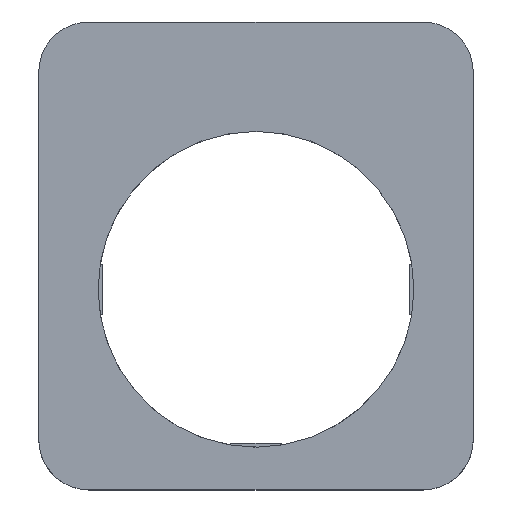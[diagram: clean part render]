
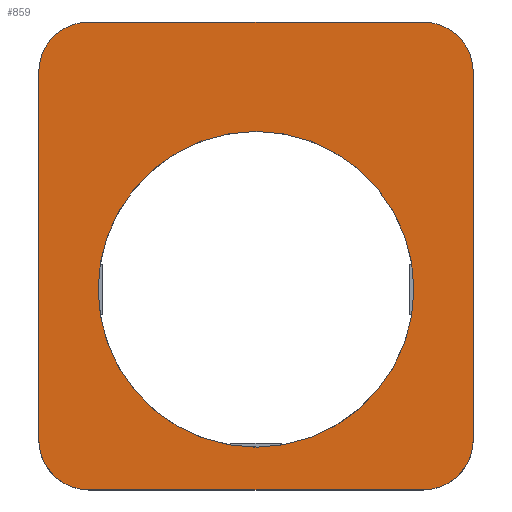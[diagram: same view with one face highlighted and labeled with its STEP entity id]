
A CAD part, top view. The second image highlights one B-rep face of the part: STEP entity #859.
In plain terms, the highlighted planar face has unit normal (0, 0, 1).
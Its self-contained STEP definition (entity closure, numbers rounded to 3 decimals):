
#24 = VERTEX_POINT('',#25);
#25 = CARTESIAN_POINT('',(-20.,-28.,14.8));
#32 = PLANE('',#33);
#33 = AXIS2_PLACEMENT_3D('',#34,#35,#36);
#34 = CARTESIAN_POINT('',(-20.,-28.,2.4));
#35 = DIRECTION('',(0.,1.,0.));
#36 = DIRECTION('',(1.,0.,0.));
#44 = CYLINDRICAL_SURFACE('',#45,6.);
#45 = AXIS2_PLACEMENT_3D('',#46,#47,#48);
#46 = CARTESIAN_POINT('',(-20.,-22.,2.4));
#47 = DIRECTION('',(-0.,-0.,-1.));
#48 = DIRECTION('',(1.,0.,0.));
#56 = EDGE_CURVE('',#24,#57,#59,.T.);
#57 = VERTEX_POINT('',#58);
#58 = CARTESIAN_POINT('',(20.,-28.,14.8));
#59 = SURFACE_CURVE('',#60,(#64,#71),.PCURVE_S1.);
#60 = LINE('',#61,#62);
#61 = CARTESIAN_POINT('',(-20.,-28.,14.8));
#62 = VECTOR('',#63,1.);
#63 = DIRECTION('',(1.,0.,0.));
#64 = PCURVE('',#32,#65);
#65 = DEFINITIONAL_REPRESENTATION('',(#66),#70);
#66 = LINE('',#67,#68);
#67 = CARTESIAN_POINT('',(0.,-12.4));
#68 = VECTOR('',#69,1.);
#69 = DIRECTION('',(1.,0.));
#70 = ( GEOMETRIC_REPRESENTATION_CONTEXT(2) 
PARAMETRIC_REPRESENTATION_CONTEXT() REPRESENTATION_CONTEXT('2D SPACE',''
  ) );
#71 = PCURVE('',#72,#77);
#72 = PLANE('',#73);
#73 = AXIS2_PLACEMENT_3D('',#74,#75,#76);
#74 = CARTESIAN_POINT('',(0.,0.,14.8));
#75 = DIRECTION('',(0.,0.,1.));
#76 = DIRECTION('',(1.,0.,-0.));
#77 = DEFINITIONAL_REPRESENTATION('',(#78),#82);
#78 = LINE('',#79,#80);
#79 = CARTESIAN_POINT('',(-20.,-28.));
#80 = VECTOR('',#81,1.);
#81 = DIRECTION('',(1.,0.));
#82 = ( GEOMETRIC_REPRESENTATION_CONTEXT(2) 
PARAMETRIC_REPRESENTATION_CONTEXT() REPRESENTATION_CONTEXT('2D SPACE',''
  ) );
#100 = CYLINDRICAL_SURFACE('',#101,6.);
#101 = AXIS2_PLACEMENT_3D('',#102,#103,#104);
#102 = CARTESIAN_POINT('',(20.,-22.,2.4));
#103 = DIRECTION('',(-0.,-0.,-1.));
#104 = DIRECTION('',(1.,0.,0.));
#272 = VERTEX_POINT('',#273);
#273 = CARTESIAN_POINT('',(-26.,-22.,14.8));
#287 = PLANE('',#288);
#288 = AXIS2_PLACEMENT_3D('',#289,#290,#291);
#289 = CARTESIAN_POINT('',(-26.,22.,2.4));
#290 = DIRECTION('',(1.,0.,-0.));
#291 = DIRECTION('',(0.,-1.,0.));
#299 = EDGE_CURVE('',#272,#24,#300,.T.);
#300 = SURFACE_CURVE('',#301,(#306,#313),.PCURVE_S1.);
#301 = CIRCLE('',#302,6.);
#302 = AXIS2_PLACEMENT_3D('',#303,#304,#305);
#303 = CARTESIAN_POINT('',(-20.,-22.,14.8));
#304 = DIRECTION('',(0.,0.,1.));
#305 = DIRECTION('',(1.,0.,0.));
#306 = PCURVE('',#44,#307);
#307 = DEFINITIONAL_REPRESENTATION('',(#308),#312);
#308 = LINE('',#309,#310);
#309 = CARTESIAN_POINT('',(-0.,-12.4));
#310 = VECTOR('',#311,1.);
#311 = DIRECTION('',(-1.,0.));
#312 = ( GEOMETRIC_REPRESENTATION_CONTEXT(2) 
PARAMETRIC_REPRESENTATION_CONTEXT() REPRESENTATION_CONTEXT('2D SPACE',''
  ) );
#313 = PCURVE('',#72,#314);
#314 = DEFINITIONAL_REPRESENTATION('',(#315),#319);
#315 = CIRCLE('',#316,6.);
#316 = AXIS2_PLACEMENT_2D('',#317,#318);
#317 = CARTESIAN_POINT('',(-20.,-22.));
#318 = DIRECTION('',(1.,0.));
#319 = ( GEOMETRIC_REPRESENTATION_CONTEXT(2) 
PARAMETRIC_REPRESENTATION_CONTEXT() REPRESENTATION_CONTEXT('2D SPACE',''
  ) );
#390 = PLANE('',#391);
#391 = AXIS2_PLACEMENT_3D('',#392,#393,#394);
#392 = CARTESIAN_POINT('',(26.,-22.,2.4));
#393 = DIRECTION('',(-1.,0.,0.));
#394 = DIRECTION('',(0.,1.,0.));
#419 = CYLINDRICAL_SURFACE('',#420,6.);
#420 = AXIS2_PLACEMENT_3D('',#421,#422,#423);
#421 = CARTESIAN_POINT('',(20.,22.,2.4));
#422 = DIRECTION('',(-0.,-0.,-1.));
#423 = DIRECTION('',(1.,0.,0.));
#447 = PLANE('',#448);
#448 = AXIS2_PLACEMENT_3D('',#449,#450,#451);
#449 = CARTESIAN_POINT('',(20.,28.,2.4));
#450 = DIRECTION('',(0.,-1.,0.));
#451 = DIRECTION('',(-1.,0.,0.));
#474 = CYLINDRICAL_SURFACE('',#475,6.);
#475 = AXIS2_PLACEMENT_3D('',#476,#477,#478);
#476 = CARTESIAN_POINT('',(-20.,22.,2.4));
#477 = DIRECTION('',(-0.,-0.,-1.));
#478 = DIRECTION('',(1.,0.,0.));
#859 = ADVANCED_FACE('',(#860,#1003),#72,.T.);
#860 = FACE_BOUND('',#861,.T.);
#861 = EDGE_LOOP('',(#862,#885,#886,#887,#911,#934,#958,#981));
#862 = ORIENTED_EDGE('',*,*,#863,.T.);
#863 = EDGE_CURVE('',#864,#272,#866,.T.);
#864 = VERTEX_POINT('',#865);
#865 = CARTESIAN_POINT('',(-26.,22.,14.8));
#866 = SURFACE_CURVE('',#867,(#871,#878),.PCURVE_S1.);
#867 = LINE('',#868,#869);
#868 = CARTESIAN_POINT('',(-26.,22.,14.8));
#869 = VECTOR('',#870,1.);
#870 = DIRECTION('',(0.,-1.,0.));
#871 = PCURVE('',#72,#872);
#872 = DEFINITIONAL_REPRESENTATION('',(#873),#877);
#873 = LINE('',#874,#875);
#874 = CARTESIAN_POINT('',(-26.,22.));
#875 = VECTOR('',#876,1.);
#876 = DIRECTION('',(0.,-1.));
#877 = ( GEOMETRIC_REPRESENTATION_CONTEXT(2) 
PARAMETRIC_REPRESENTATION_CONTEXT() REPRESENTATION_CONTEXT('2D SPACE',''
  ) );
#878 = PCURVE('',#287,#879);
#879 = DEFINITIONAL_REPRESENTATION('',(#880),#884);
#880 = LINE('',#881,#882);
#881 = CARTESIAN_POINT('',(0.,-12.4));
#882 = VECTOR('',#883,1.);
#883 = DIRECTION('',(1.,0.));
#884 = ( GEOMETRIC_REPRESENTATION_CONTEXT(2) 
PARAMETRIC_REPRESENTATION_CONTEXT() REPRESENTATION_CONTEXT('2D SPACE',''
  ) );
#885 = ORIENTED_EDGE('',*,*,#299,.T.);
#886 = ORIENTED_EDGE('',*,*,#56,.T.);
#887 = ORIENTED_EDGE('',*,*,#888,.T.);
#888 = EDGE_CURVE('',#57,#889,#891,.T.);
#889 = VERTEX_POINT('',#890);
#890 = CARTESIAN_POINT('',(26.,-22.,14.8));
#891 = SURFACE_CURVE('',#892,(#897,#904),.PCURVE_S1.);
#892 = CIRCLE('',#893,6.);
#893 = AXIS2_PLACEMENT_3D('',#894,#895,#896);
#894 = CARTESIAN_POINT('',(20.,-22.,14.8));
#895 = DIRECTION('',(0.,0.,1.));
#896 = DIRECTION('',(1.,0.,0.));
#897 = PCURVE('',#72,#898);
#898 = DEFINITIONAL_REPRESENTATION('',(#899),#903);
#899 = CIRCLE('',#900,6.);
#900 = AXIS2_PLACEMENT_2D('',#901,#902);
#901 = CARTESIAN_POINT('',(20.,-22.));
#902 = DIRECTION('',(1.,0.));
#903 = ( GEOMETRIC_REPRESENTATION_CONTEXT(2) 
PARAMETRIC_REPRESENTATION_CONTEXT() REPRESENTATION_CONTEXT('2D SPACE',''
  ) );
#904 = PCURVE('',#100,#905);
#905 = DEFINITIONAL_REPRESENTATION('',(#906),#910);
#906 = LINE('',#907,#908);
#907 = CARTESIAN_POINT('',(-0.,-12.4));
#908 = VECTOR('',#909,1.);
#909 = DIRECTION('',(-1.,0.));
#910 = ( GEOMETRIC_REPRESENTATION_CONTEXT(2) 
PARAMETRIC_REPRESENTATION_CONTEXT() REPRESENTATION_CONTEXT('2D SPACE',''
  ) );
#911 = ORIENTED_EDGE('',*,*,#912,.T.);
#912 = EDGE_CURVE('',#889,#913,#915,.T.);
#913 = VERTEX_POINT('',#914);
#914 = CARTESIAN_POINT('',(26.,22.,14.8));
#915 = SURFACE_CURVE('',#916,(#920,#927),.PCURVE_S1.);
#916 = LINE('',#917,#918);
#917 = CARTESIAN_POINT('',(26.,-22.,14.8));
#918 = VECTOR('',#919,1.);
#919 = DIRECTION('',(0.,1.,0.));
#920 = PCURVE('',#72,#921);
#921 = DEFINITIONAL_REPRESENTATION('',(#922),#926);
#922 = LINE('',#923,#924);
#923 = CARTESIAN_POINT('',(26.,-22.));
#924 = VECTOR('',#925,1.);
#925 = DIRECTION('',(0.,1.));
#926 = ( GEOMETRIC_REPRESENTATION_CONTEXT(2) 
PARAMETRIC_REPRESENTATION_CONTEXT() REPRESENTATION_CONTEXT('2D SPACE',''
  ) );
#927 = PCURVE('',#390,#928);
#928 = DEFINITIONAL_REPRESENTATION('',(#929),#933);
#929 = LINE('',#930,#931);
#930 = CARTESIAN_POINT('',(0.,-12.4));
#931 = VECTOR('',#932,1.);
#932 = DIRECTION('',(1.,0.));
#933 = ( GEOMETRIC_REPRESENTATION_CONTEXT(2) 
PARAMETRIC_REPRESENTATION_CONTEXT() REPRESENTATION_CONTEXT('2D SPACE',''
  ) );
#934 = ORIENTED_EDGE('',*,*,#935,.T.);
#935 = EDGE_CURVE('',#913,#936,#938,.T.);
#936 = VERTEX_POINT('',#937);
#937 = CARTESIAN_POINT('',(20.,28.,14.8));
#938 = SURFACE_CURVE('',#939,(#944,#951),.PCURVE_S1.);
#939 = CIRCLE('',#940,6.);
#940 = AXIS2_PLACEMENT_3D('',#941,#942,#943);
#941 = CARTESIAN_POINT('',(20.,22.,14.8));
#942 = DIRECTION('',(0.,0.,1.));
#943 = DIRECTION('',(1.,0.,0.));
#944 = PCURVE('',#72,#945);
#945 = DEFINITIONAL_REPRESENTATION('',(#946),#950);
#946 = CIRCLE('',#947,6.);
#947 = AXIS2_PLACEMENT_2D('',#948,#949);
#948 = CARTESIAN_POINT('',(20.,22.));
#949 = DIRECTION('',(1.,0.));
#950 = ( GEOMETRIC_REPRESENTATION_CONTEXT(2) 
PARAMETRIC_REPRESENTATION_CONTEXT() REPRESENTATION_CONTEXT('2D SPACE',''
  ) );
#951 = PCURVE('',#419,#952);
#952 = DEFINITIONAL_REPRESENTATION('',(#953),#957);
#953 = LINE('',#954,#955);
#954 = CARTESIAN_POINT('',(-0.,-12.4));
#955 = VECTOR('',#956,1.);
#956 = DIRECTION('',(-1.,0.));
#957 = ( GEOMETRIC_REPRESENTATION_CONTEXT(2) 
PARAMETRIC_REPRESENTATION_CONTEXT() REPRESENTATION_CONTEXT('2D SPACE',''
  ) );
#958 = ORIENTED_EDGE('',*,*,#959,.T.);
#959 = EDGE_CURVE('',#936,#960,#962,.T.);
#960 = VERTEX_POINT('',#961);
#961 = CARTESIAN_POINT('',(-20.,28.,14.8));
#962 = SURFACE_CURVE('',#963,(#967,#974),.PCURVE_S1.);
#963 = LINE('',#964,#965);
#964 = CARTESIAN_POINT('',(20.,28.,14.8));
#965 = VECTOR('',#966,1.);
#966 = DIRECTION('',(-1.,0.,0.));
#967 = PCURVE('',#72,#968);
#968 = DEFINITIONAL_REPRESENTATION('',(#969),#973);
#969 = LINE('',#970,#971);
#970 = CARTESIAN_POINT('',(20.,28.));
#971 = VECTOR('',#972,1.);
#972 = DIRECTION('',(-1.,0.));
#973 = ( GEOMETRIC_REPRESENTATION_CONTEXT(2) 
PARAMETRIC_REPRESENTATION_CONTEXT() REPRESENTATION_CONTEXT('2D SPACE',''
  ) );
#974 = PCURVE('',#447,#975);
#975 = DEFINITIONAL_REPRESENTATION('',(#976),#980);
#976 = LINE('',#977,#978);
#977 = CARTESIAN_POINT('',(0.,-12.4));
#978 = VECTOR('',#979,1.);
#979 = DIRECTION('',(1.,0.));
#980 = ( GEOMETRIC_REPRESENTATION_CONTEXT(2) 
PARAMETRIC_REPRESENTATION_CONTEXT() REPRESENTATION_CONTEXT('2D SPACE',''
  ) );
#981 = ORIENTED_EDGE('',*,*,#982,.T.);
#982 = EDGE_CURVE('',#960,#864,#983,.T.);
#983 = SURFACE_CURVE('',#984,(#989,#996),.PCURVE_S1.);
#984 = CIRCLE('',#985,6.);
#985 = AXIS2_PLACEMENT_3D('',#986,#987,#988);
#986 = CARTESIAN_POINT('',(-20.,22.,14.8));
#987 = DIRECTION('',(0.,0.,1.));
#988 = DIRECTION('',(1.,0.,0.));
#989 = PCURVE('',#72,#990);
#990 = DEFINITIONAL_REPRESENTATION('',(#991),#995);
#991 = CIRCLE('',#992,6.);
#992 = AXIS2_PLACEMENT_2D('',#993,#994);
#993 = CARTESIAN_POINT('',(-20.,22.));
#994 = DIRECTION('',(1.,0.));
#995 = ( GEOMETRIC_REPRESENTATION_CONTEXT(2) 
PARAMETRIC_REPRESENTATION_CONTEXT() REPRESENTATION_CONTEXT('2D SPACE',''
  ) );
#996 = PCURVE('',#474,#997);
#997 = DEFINITIONAL_REPRESENTATION('',(#998),#1002);
#998 = LINE('',#999,#1000);
#999 = CARTESIAN_POINT('',(-0.,-12.4));
#1000 = VECTOR('',#1001,1.);
#1001 = DIRECTION('',(-1.,0.));
#1002 = ( GEOMETRIC_REPRESENTATION_CONTEXT(2) 
PARAMETRIC_REPRESENTATION_CONTEXT() REPRESENTATION_CONTEXT('2D SPACE',''
  ) );
#1003 = FACE_BOUND('',#1004,.T.);
#1004 = EDGE_LOOP('',(#1005));
#1005 = ORIENTED_EDGE('',*,*,#1006,.T.);
#1006 = EDGE_CURVE('',#1007,#1007,#1009,.T.);
#1007 = VERTEX_POINT('',#1008);
#1008 = CARTESIAN_POINT('',(18.9,-4.,14.8));
#1009 = SURFACE_CURVE('',#1010,(#1015,#1026),.PCURVE_S1.);
#1010 = CIRCLE('',#1011,18.9);
#1011 = AXIS2_PLACEMENT_3D('',#1012,#1013,#1014);
#1012 = CARTESIAN_POINT('',(0.,-4.,14.8));
#1013 = DIRECTION('',(0.,0.,-1.));
#1014 = DIRECTION('',(1.,0.,0.));
#1015 = PCURVE('',#72,#1016);
#1016 = DEFINITIONAL_REPRESENTATION('',(#1017),#1025);
#1017 = ( BOUNDED_CURVE() B_SPLINE_CURVE(2,(#1018,#1019,#1020,#1021,
#1022,#1023,#1024),.UNSPECIFIED.,.T.,.F.) B_SPLINE_CURVE_WITH_KNOTS((1,2
    ,2,2,2,1),(-2.094,0.,2.094,4.189,
6.283,8.378),.UNSPECIFIED.) CURVE() 
GEOMETRIC_REPRESENTATION_ITEM() RATIONAL_B_SPLINE_CURVE((1.,0.5,1.,0.5,
1.,0.5,1.)) REPRESENTATION_ITEM('') );
#1018 = CARTESIAN_POINT('',(18.9,-4.));
#1019 = CARTESIAN_POINT('',(18.9,-36.736));
#1020 = CARTESIAN_POINT('',(-9.45,-20.368));
#1021 = CARTESIAN_POINT('',(-37.8,-4.));
#1022 = CARTESIAN_POINT('',(-9.45,12.368));
#1023 = CARTESIAN_POINT('',(18.9,28.736));
#1024 = CARTESIAN_POINT('',(18.9,-4.));
#1025 = ( GEOMETRIC_REPRESENTATION_CONTEXT(2) 
PARAMETRIC_REPRESENTATION_CONTEXT() REPRESENTATION_CONTEXT('2D SPACE',''
  ) );
#1026 = PCURVE('',#1027,#1032);
#1027 = CYLINDRICAL_SURFACE('',#1028,18.9);
#1028 = AXIS2_PLACEMENT_3D('',#1029,#1030,#1031);
#1029 = CARTESIAN_POINT('',(0.,-4.,12.5));
#1030 = DIRECTION('',(-0.,-0.,-1.));
#1031 = DIRECTION('',(1.,0.,0.));
#1032 = DEFINITIONAL_REPRESENTATION('',(#1033),#1037);
#1033 = LINE('',#1034,#1035);
#1034 = CARTESIAN_POINT('',(-6.283,-2.3));
#1035 = VECTOR('',#1036,1.);
#1036 = DIRECTION('',(1.,-0.));
#1037 = ( GEOMETRIC_REPRESENTATION_CONTEXT(2) 
PARAMETRIC_REPRESENTATION_CONTEXT() REPRESENTATION_CONTEXT('2D SPACE',''
  ) );
